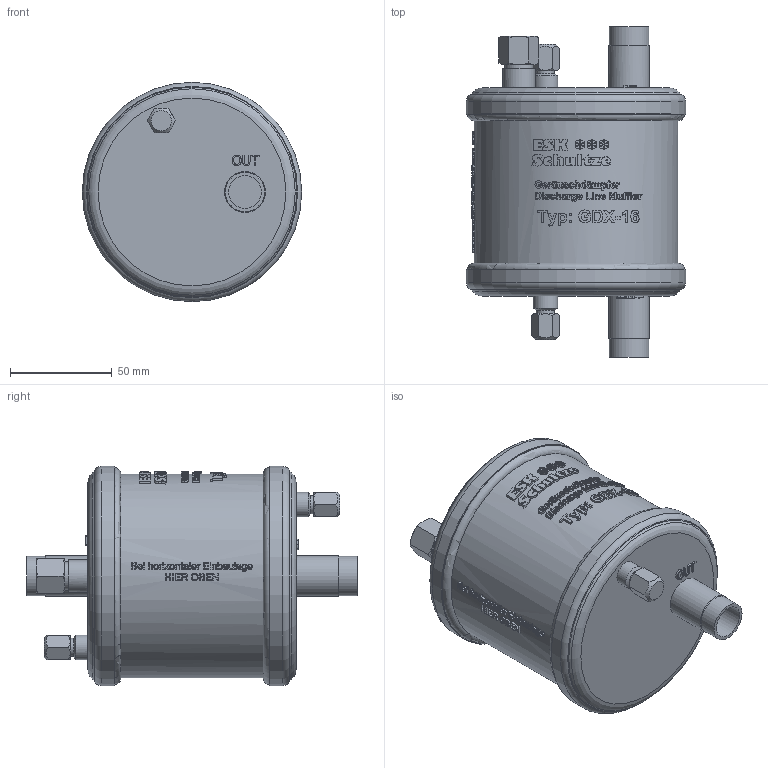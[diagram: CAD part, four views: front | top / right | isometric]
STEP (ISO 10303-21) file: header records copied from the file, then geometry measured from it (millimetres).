
FILE_DESCRIPTION(/* description */ (''),/* implementation_level */ '2;1');
FILE_NAME(/* name */ 'P:\GD\GDX-16\GDX-16.stp',/* time_stamp */ '2017-10-05T08:30:19+02:00',/* author */ ('neufeld'),/* organization */ (''),/* preprocessor_version */ 'ST-DEVELOPER v16.1',/* originating_system */ 'Autodesk Inventor 2016',/* authorisation */ '');
FILE_SCHEMA (('AUTOMOTIVE_DESIGN { 1 0 10303 214 3 1 1 }'));
Length unit declared in the file: millimetre
Products named in the file (2): GDX-16; GDX-16_1
Assembly tree (1 placements, depth 2):
  GDX-16_1
    GDX-16
Bounding box: 107.5 x 162 x 107.5 mm (x, y, z)
Volume: 852746.3 mm3; surface area: 60406.3 mm2
Topology: 1 solids, 1 shells, 1625 faces, 4377 edges, 2907 vertices
Faces by surface type: plane 852, bspline 585, cylinder 150, cone 28, torus 10
Full cylindrical faces by diameter (mm): 8.9 x2, 12 x2, 13.8 x1, 14.5 x1, 16 x1, 16.2 x2, 19.4 x2, 20 x2, 100 x1, 107.5 x2
Entity records: 62301 total; most frequent: CARTESIAN_POINT 24880, ORIENTED_EDGE 8650, DIRECTION 6194, EDGE_CURVE 4325, VERTEX_POINT 2897, LINE 2102, VECTOR 2102, AXIS2_PLACEMENT_3D 2046
